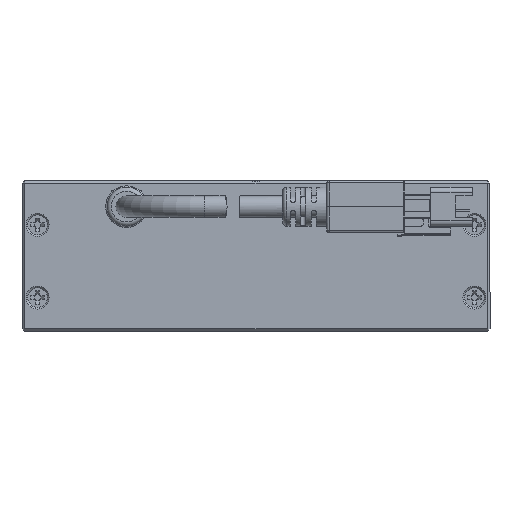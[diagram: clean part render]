
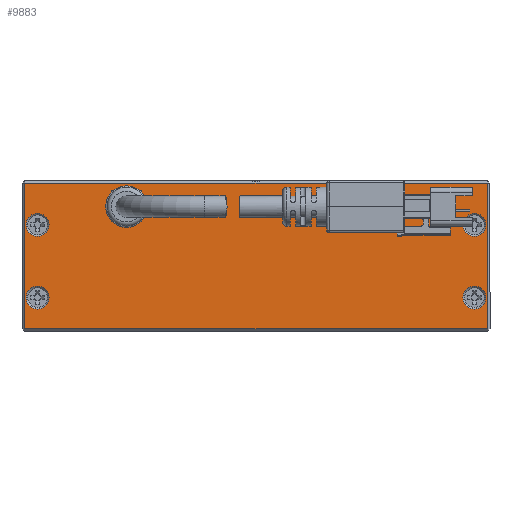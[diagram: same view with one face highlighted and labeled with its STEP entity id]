
A CAD part, front view. The second image highlights one B-rep face of the part: STEP entity #9883.
In plain terms, the highlighted planar face has unit normal (0, -1, 0).
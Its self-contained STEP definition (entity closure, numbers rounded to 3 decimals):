
#105 = ORIENTED_EDGE ( 'NONE', *, *, #2381, .F. ) ;
#436 = VECTOR ( 'NONE', #12487, 1000. ) ;
#535 = LINE ( 'NONE', #4371, #10736 ) ;
#930 = LINE ( 'NONE', #8539, #1920 ) ;
#992 = EDGE_CURVE ( 'NONE', #11785, #7017, #535, .T. ) ;
#1211 = VERTEX_POINT ( 'NONE', #2968 ) ;
#1539 = CARTESIAN_POINT ( 'NONE',  ( 39.8, -45., -20.5 ) ) ;
#1864 = EDGE_CURVE ( 'NONE', #15017, #10922, #930, .T. ) ;
#1891 = FACE_BOUND ( 'NONE', #5930, .T. ) ;
#1920 = VECTOR ( 'NONE', #9983, 1000. ) ;
#2269 = CIRCLE ( 'NONE', #18883, 2.2 ) ;
#2303 = DIRECTION ( 'NONE',  ( 1., 0., 0. ) ) ;
#2381 = EDGE_CURVE ( 'NONE', #4204, #4204, #19684, .T. ) ;
#2870 = CARTESIAN_POINT ( 'NONE',  ( -45., -45., 1.5 ) ) ;
#2883 = FACE_OUTER_BOUND ( 'NONE', #5612, .T. ) ;
#2966 = DIRECTION ( 'NONE',  ( 0., 1., 0. ) ) ;
#2968 = CARTESIAN_POINT ( 'NONE',  ( -44.2, -45., -6.5 ) ) ;
#3040 = DIRECTION ( 'NONE',  ( -1., 0., 0. ) ) ;
#3362 = AXIS2_PLACEMENT_3D ( 'NONE', #18076, #7029, #10164 ) ;
#3413 = LINE ( 'NONE', #15474, #436 ) ;
#3706 = EDGE_CURVE ( 'NONE', #16918, #12557, #17844, .T. ) ;
#3753 = DIRECTION ( 'NONE',  ( -1., 0., 0. ) ) ;
#4119 = CIRCLE ( 'NONE', #14990, 2.2 ) ;
#4175 = ORIENTED_EDGE ( 'NONE', *, *, #17352, .F. ) ;
#4204 = VERTEX_POINT ( 'NONE', #13818 ) ;
#4366 = ORIENTED_EDGE ( 'NONE', *, *, #7493, .T. ) ;
#4371 = CARTESIAN_POINT ( 'NONE',  ( -22.1, -45., -3. ) ) ;
#4819 = CARTESIAN_POINT ( 'NONE',  ( -44.5, -45., -26.5 ) ) ;
#4828 = CARTESIAN_POINT ( 'NONE',  ( -45., -45., 2. ) ) ;
#4928 = DIRECTION ( 'NONE',  ( -1., 0., 0. ) ) ;
#5166 = VECTOR ( 'NONE', #17748, 1000. ) ;
#5359 = CARTESIAN_POINT ( 'NONE',  ( -42., -45., -6.5 ) ) ;
#5414 = EDGE_CURVE ( 'NONE', #1211, #1211, #2269, .T. ) ;
#5437 = ORIENTED_EDGE ( 'NONE', *, *, #7515, .T. ) ;
#5612 = EDGE_LOOP ( 'NONE', ( #5437, #11230, #14257, #8656 ) ) ;
#5930 = EDGE_LOOP ( 'NONE', ( #105 ) ) ;
#7017 = VERTEX_POINT ( 'NONE', #15866 ) ;
#7029 = DIRECTION ( 'NONE',  ( 0., -1., 0. ) ) ;
#7073 = CARTESIAN_POINT ( 'NONE',  ( -27.7, -45., -3. ) ) ;
#7453 = VECTOR ( 'NONE', #2303, 1000. ) ;
#7493 = EDGE_CURVE ( 'NONE', #12477, #7017, #13473, .T. ) ;
#7515 = EDGE_CURVE ( 'NONE', #10922, #16918, #18625, .T. ) ;
#8134 = CIRCLE ( 'NONE', #15650, 2.8 ) ;
#8539 = CARTESIAN_POINT ( 'NONE',  ( 44.5, -45., 2. ) ) ;
#8656 = ORIENTED_EDGE ( 'NONE', *, *, #1864, .T. ) ;
#8838 = DIRECTION ( 'NONE',  ( 0., -1., 0. ) ) ;
#9537 = ORIENTED_EDGE ( 'NONE', *, *, #992, .F. ) ;
#9540 = PLANE ( 'NONE',  #18760 ) ;
#9883 = ADVANCED_FACE ( 'NONE', ( #14653, #2883, #11895, #1891, #17092, #20046 ), #9540, .F. ) ;
#9983 = DIRECTION ( 'NONE',  ( 0., 0., 1. ) ) ;
#10164 = DIRECTION ( 'NONE',  ( -1., 0., 0. ) ) ;
#10736 = VECTOR ( 'NONE', #17091, 1000. ) ;
#10922 = VERTEX_POINT ( 'NONE', #17938 ) ;
#10963 = EDGE_LOOP ( 'NONE', ( #11376 ) ) ;
#11037 = EDGE_LOOP ( 'NONE', ( #18376 ) ) ;
#11230 = ORIENTED_EDGE ( 'NONE', *, *, #3706, .T. ) ;
#11258 = CARTESIAN_POINT ( 'NONE',  ( 42., -45., -20.5 ) ) ;
#11328 = DIRECTION ( 'NONE',  ( 0., -1., 0. ) ) ;
#11376 = ORIENTED_EDGE ( 'NONE', *, *, #11809, .F. ) ;
#11434 = VERTEX_POINT ( 'NONE', #7073 ) ;
#11661 = EDGE_CURVE ( 'NONE', #11434, #12477, #3413, .T. ) ;
#11762 = CARTESIAN_POINT ( 'NONE',  ( -22.1, -45., -3. ) ) ;
#11785 = VERTEX_POINT ( 'NONE', #11762 ) ;
#11809 = EDGE_CURVE ( 'NONE', #13928, #13928, #12139, .T. ) ;
#11895 = FACE_BOUND ( 'NONE', #14383, .T. ) ;
#12139 = CIRCLE ( 'NONE', #3362, 2.2 ) ;
#12366 = CARTESIAN_POINT ( 'NONE',  ( -45., -45., 0. ) ) ;
#12477 = VERTEX_POINT ( 'NONE', #16640 ) ;
#12487 = DIRECTION ( 'NONE',  ( 0., 0., 1. ) ) ;
#12557 = VERTEX_POINT ( 'NONE', #4819 ) ;
#12630 = CARTESIAN_POINT ( 'NONE',  ( -24.9, -45., -3. ) ) ;
#13388 = DIRECTION ( 'NONE',  ( 0., -1., 0. ) ) ;
#13473 = LINE ( 'NONE', #12366, #14943 ) ;
#13818 = CARTESIAN_POINT ( 'NONE',  ( 39.8, -45., -6.5 ) ) ;
#13928 = VERTEX_POINT ( 'NONE', #18709 ) ;
#14188 = EDGE_LOOP ( 'NONE', ( #15523, #4366, #9537, #4175 ) ) ;
#14257 = ORIENTED_EDGE ( 'NONE', *, *, #16621, .T. ) ;
#14383 = EDGE_LOOP ( 'NONE', ( #16047 ) ) ;
#14572 = CARTESIAN_POINT ( 'NONE',  ( 44.5, -45., -26.5 ) ) ;
#14653 = FACE_BOUND ( 'NONE', #14188, .T. ) ;
#14742 = AXIS2_PLACEMENT_3D ( 'NONE', #18344, #8838, #19930 ) ;
#14943 = VECTOR ( 'NONE', #18713, 1000. ) ;
#14990 = AXIS2_PLACEMENT_3D ( 'NONE', #11258, #11328, #4928 ) ;
#15017 = VERTEX_POINT ( 'NONE', #14572 ) ;
#15474 = CARTESIAN_POINT ( 'NONE',  ( -27.7, -45., 0. ) ) ;
#15523 = ORIENTED_EDGE ( 'NONE', *, *, #11661, .T. ) ;
#15650 = AXIS2_PLACEMENT_3D ( 'NONE', #12630, #20438, #15819 ) ;
#15681 = LINE ( 'NONE', #16708, #7453 ) ;
#15819 = DIRECTION ( 'NONE',  ( -1., 0., 0. ) ) ;
#15866 = CARTESIAN_POINT ( 'NONE',  ( -22.1, -45., 0. ) ) ;
#16047 = ORIENTED_EDGE ( 'NONE', *, *, #16921, .F. ) ;
#16203 = CARTESIAN_POINT ( 'NONE',  ( -44.5, -45., 1.5 ) ) ;
#16621 = EDGE_CURVE ( 'NONE', #12557, #15017, #15681, .T. ) ;
#16640 = CARTESIAN_POINT ( 'NONE',  ( -27.7, -45., 0. ) ) ;
#16676 = VERTEX_POINT ( 'NONE', #1539 ) ;
#16708 = CARTESIAN_POINT ( 'NONE',  ( -45., -45., -26.5 ) ) ;
#16918 = VERTEX_POINT ( 'NONE', #16203 ) ;
#16921 = EDGE_CURVE ( 'NONE', #16676, #16676, #4119, .T. ) ;
#17091 = DIRECTION ( 'NONE',  ( 0., 0., 1. ) ) ;
#17092 = FACE_BOUND ( 'NONE', #11037, .T. ) ;
#17352 = EDGE_CURVE ( 'NONE', #11434, #11785, #8134, .T. ) ;
#17748 = DIRECTION ( 'NONE',  ( 0., 0., -1. ) ) ;
#17844 = LINE ( 'NONE', #19464, #5166 ) ;
#17938 = CARTESIAN_POINT ( 'NONE',  ( 44.5, -45., 1.5 ) ) ;
#18076 = CARTESIAN_POINT ( 'NONE',  ( -42., -45., -20.5 ) ) ;
#18164 = VECTOR ( 'NONE', #18784, 1000. ) ;
#18344 = CARTESIAN_POINT ( 'NONE',  ( 42., -45., -6.5 ) ) ;
#18376 = ORIENTED_EDGE ( 'NONE', *, *, #5414, .F. ) ;
#18625 = LINE ( 'NONE', #2870, #18164 ) ;
#18709 = CARTESIAN_POINT ( 'NONE',  ( -44.2, -45., -20.5 ) ) ;
#18713 = DIRECTION ( 'NONE',  ( 1., 0., 0. ) ) ;
#18760 = AXIS2_PLACEMENT_3D ( 'NONE', #4828, #2966, #3040 ) ;
#18784 = DIRECTION ( 'NONE',  ( -1., 0., 0. ) ) ;
#18883 = AXIS2_PLACEMENT_3D ( 'NONE', #5359, #13388, #3753 ) ;
#19464 = CARTESIAN_POINT ( 'NONE',  ( -44.5, -45., 2. ) ) ;
#19684 = CIRCLE ( 'NONE', #14742, 2.2 ) ;
#19930 = DIRECTION ( 'NONE',  ( -1., 0., 0. ) ) ;
#20046 = FACE_BOUND ( 'NONE', #10963, .T. ) ;
#20438 = DIRECTION ( 'NONE',  ( 0., -1., 0. ) ) ;
